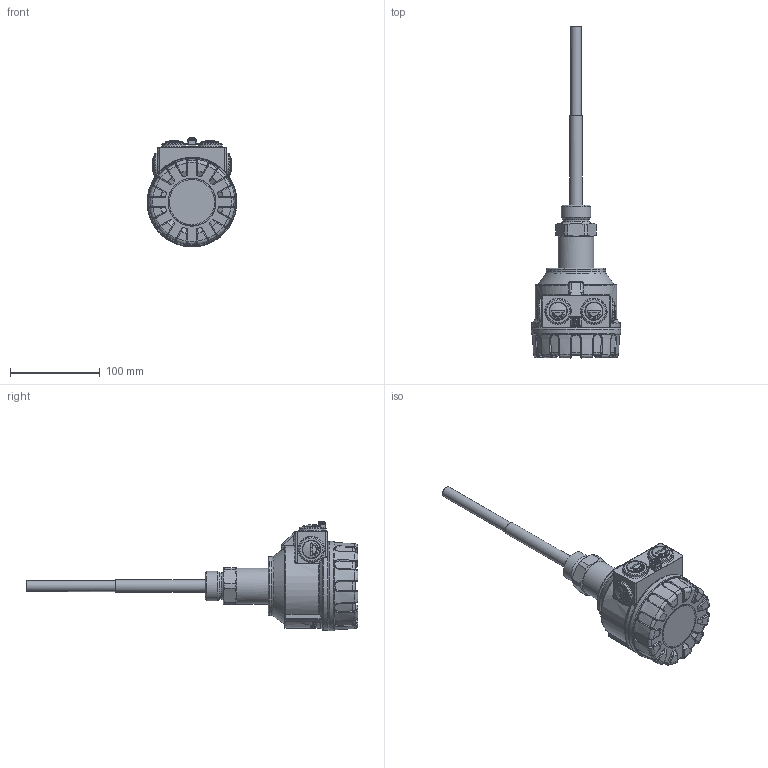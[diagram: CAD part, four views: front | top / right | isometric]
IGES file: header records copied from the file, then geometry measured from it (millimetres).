
Global section: file name: CT_Al_1 col_vékony rud,; native system: Autodesk Inventor 2015; preprocessor: unknown; author: aantal; date: 20150626.082917; units: millimetre
Bounding box: 99.99 x 370.5 x 122.49 mm (x, y, z)
Volume: 738754.8 mm3; surface area: 105147.8 mm2
Topology: 12 solids, 12 shells, 1147 faces, 2900 edges, 1818 vertices
Faces by surface type: bspline 1147
